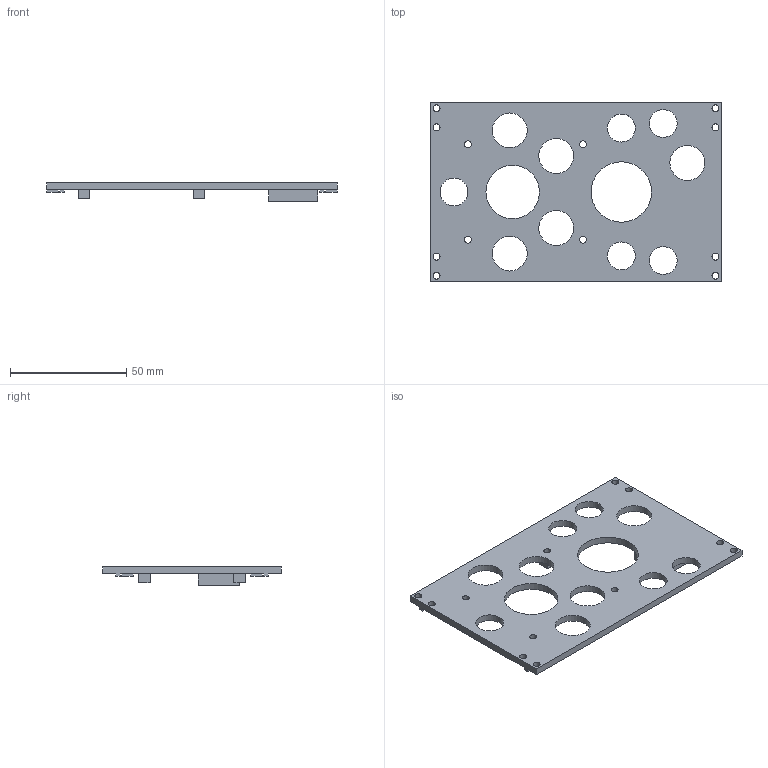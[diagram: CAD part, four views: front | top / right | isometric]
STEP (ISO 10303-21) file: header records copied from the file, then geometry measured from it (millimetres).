
FILE_DESCRIPTION(('FreeCAD Model'),'2;1');
FILE_NAME('Open CASCADE Shape Model','2026-08-16T22:23:08',('Author'),( ''),'Open CASCADE STEP processor 7.8','FreeCAD','Unknown');
FILE_SCHEMA(('AUTOMOTIVE_DESIGN { 1 0 10303 214 1 1 1 1 }'));
Length unit declared in the file: millimetre
Products named in the file (1): Body
Bounding box: 125 x 77 x 8 mm (x, y, z)
Volume: 22744.6 mm3; surface area: 18685.5 mm2
Topology: 1 solids, 1 shells, 95 faces, 252 edges, 168 vertices
Faces by surface type: plane 71, cylinder 24
Full cylindrical faces by diameter (mm): 2.95 x4, 3 x8, 12 x5, 15 x5, 23 x1, 26 x1
Entity records: 3040 total; most frequent: CARTESIAN_POINT 528, ORIENTED_EDGE 504, DIRECTION 480, EDGE_CURVE 252, LINE 192, VECTOR 192, VERTEX_POINT 168, FACE_BOUND 152
